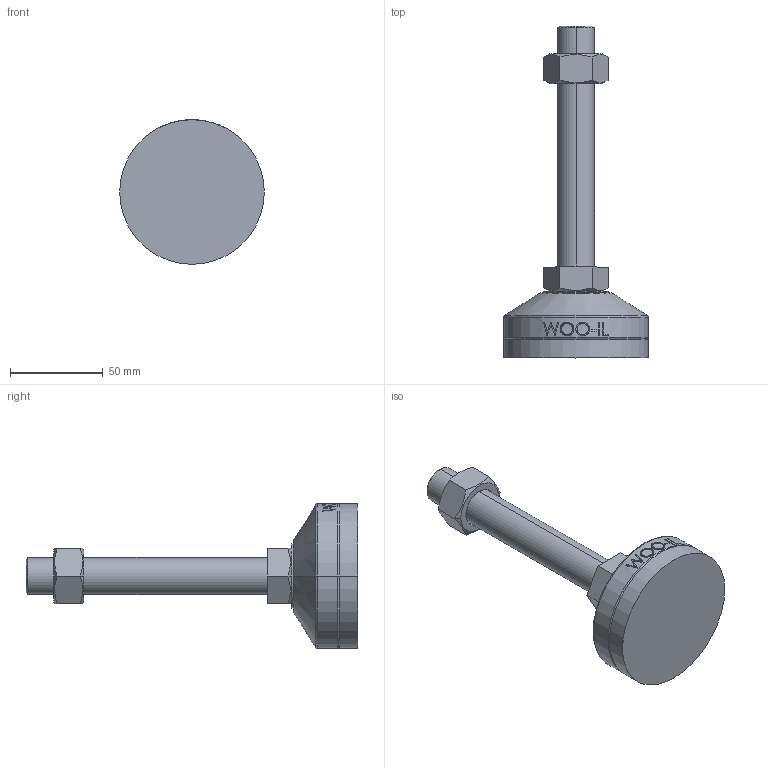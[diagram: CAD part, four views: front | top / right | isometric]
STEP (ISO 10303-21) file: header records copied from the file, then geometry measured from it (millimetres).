
FILE_DESCRIPTION (( 'STEP AP214' ), '1' );
FILE_NAME ('MFR78-M20-130.step', '2021-01-13T05:39:19', ( '' ), ( '' ), 'SwSTEP 2.0', 'SolidWorks 2019', '' );
FILE_SCHEMA (( 'AUTOMOTIVE_DESIGN' ));
Length unit declared in the file: millimetre
Products named in the file (2): MFR78-M20-130
Bounding box: 78 x 179 x 78 mm (x, y, z)
Volume: 201402.2 mm3; surface area: 30641.2 mm2
Topology: 3 solids, 3 shells, 102 faces, 235 edges, 150 vertices
Faces by surface type: plane 48, cylinder 18, bspline 16, cone 14, torus 6
Entity records: 4428 total; most frequent: CARTESIAN_POINT 2173, ORIENTED_EDGE 470, DIRECTION 415, EDGE_CURVE 235, AXIS2_PLACEMENT_3D 158, VERTEX_POINT 150, EDGE_LOOP 115, FACE_OUTER_BOUND 102
